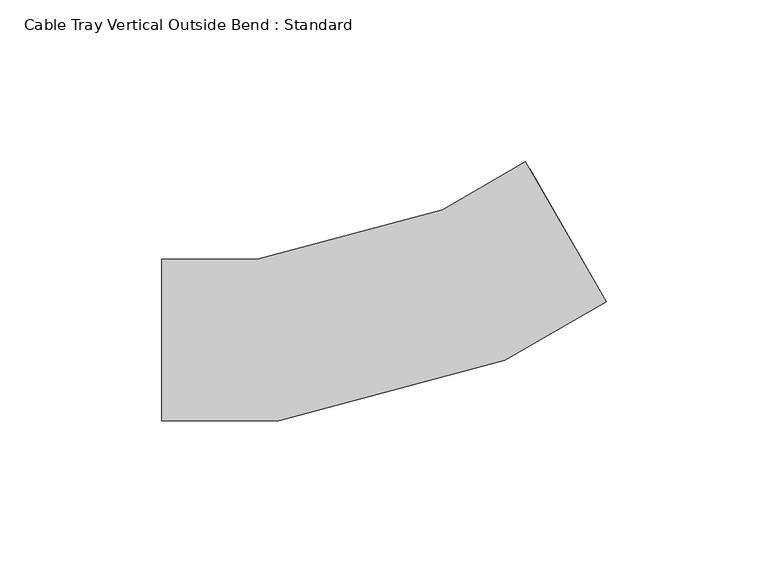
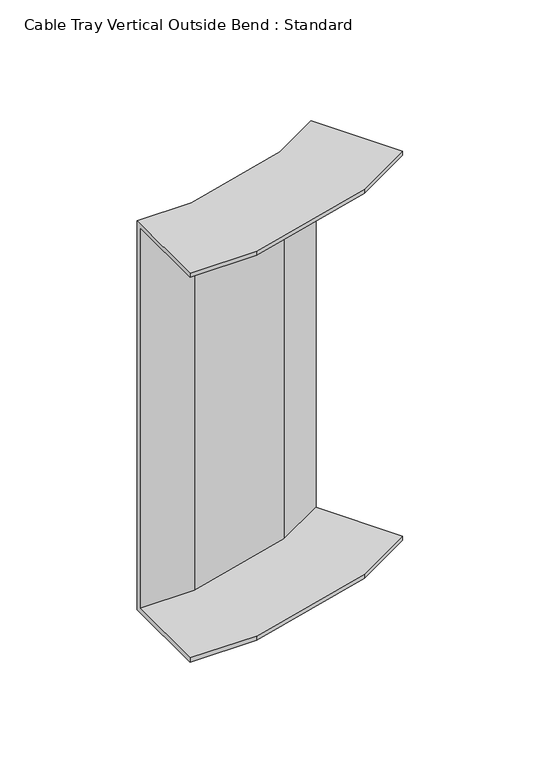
"""IFC4 building model written with IfcOpenShell, lengths in millimetres: cable carrier fitting geometry, Cable Tray Vertical Outside Bend : Standard."""

from ifc_helpers import new_model, si_unit, origin, place, context, project, spatial, faceted_brep, source, transform, mapped, element, save


def cable_tray_vertical_outside_bend_standard_4df2047e(model_context):
    return source(origin(), model_context, "Body", "Brep", [
        faceted_brep([(-66.9872981, -25.0, 112.5), (-66.9872981, 25.0, 112.5), (-66.9872981, 25.0, -112.5), (-66.9872981, -25.0, -112.5), (-66.9872981, -25.0, -109.96), (-66.9872981, 22.46, -109.96), (-66.9872981, 22.46, 109.96), (-66.9872981, -25.0, 109.96), (70.5127019, 11.843014, 112.5), (70.5127019, 11.843014, 109.96), (46.7827019, 52.9445796, 109.96), (46.7827019, 52.9445796, -109.96), (70.5127019, 11.843014, -109.96), (70.5127019, 11.843014, -112.5), (45.5127019, 55.1442841, -112.5), (45.5127019, 55.1442841, 112.5), (-30.7828613, -25.0, 112.5), (39.1587399, -6.2592045, 112.5), (19.8594602, 40.3333782, 112.5), (-37.3654862, 25.0, 112.5), (-37.3654862, 25.0, -112.5), (19.8594602, 40.3333782, -112.5), (39.1587399, -6.2592045, -112.5), (-30.7828613, -25.0, -112.5), (-30.7828613, -25.0, -109.96), (39.1587399, -6.2592045, -109.96), (20.8398636, 37.966475, -109.96), (-37.0310888, 22.46, -109.96), (-37.0310888, 22.46, 109.96), (20.8398636, 37.966475, 109.96), (39.1587399, -6.2592045, 109.96), (-30.7828613, -25.0, 109.96)], [[[0, 1, 2, 3, 4, 5, 6, 7]], [[8, 9, 10, 11, 12, 13, 14, 15]], [[1, 0, 16, 17, 8, 15, 18, 19]], [[2, 1, 19, 20]], [[3, 2, 20, 21, 14, 13, 22, 23]], [[4, 3, 23, 24]], [[5, 4, 24, 25, 12, 11, 26, 27]], [[6, 5, 27, 28]], [[7, 6, 28, 29, 10, 9, 30, 31]], [[0, 7, 31, 16]], [[20, 19, 18, 21]], [[24, 23, 22, 25]], [[28, 27, 26, 29]], [[16, 31, 30, 17]], [[21, 18, 15, 14]], [[25, 22, 13, 12]], [[29, 26, 11, 10]], [[17, 30, 9, 8]]]),
    ])


if __name__ == "__main__":
    model = new_model("IFC4")
    model_context = context("Model", 3, world=origin())
    ifc_project = project(units=[si_unit("LENGTHUNIT", "METRE", prefix="MILLI")], contexts=[model_context])
    site = spatial("IfcSite", under=ifc_project)
    building = spatial("IfcBuilding", under=site)
    placement = place(None, origin())
    cable_tray_vertical_outside_bend_standard_shape = cable_tray_vertical_outside_bend_standard_4df2047e(model_context)
    element("IfcCableCarrierFitting", 1, ObjectType="Cable Tray Vertical Outside Bend : Standard", at=placement, inside=building, context=model_context, shape_type="MappedRepresentation", body=[
        mapped(cable_tray_vertical_outside_bend_standard_shape, transform((0.0, 0.0, 0.0), x_axis=(1.0, 0.0, 0.0), y_axis=(0.0, 1.0, 0.0), z_axis=(0.0, 0.0, 1.0))),
    ])
    save(model, "model.ifc")
